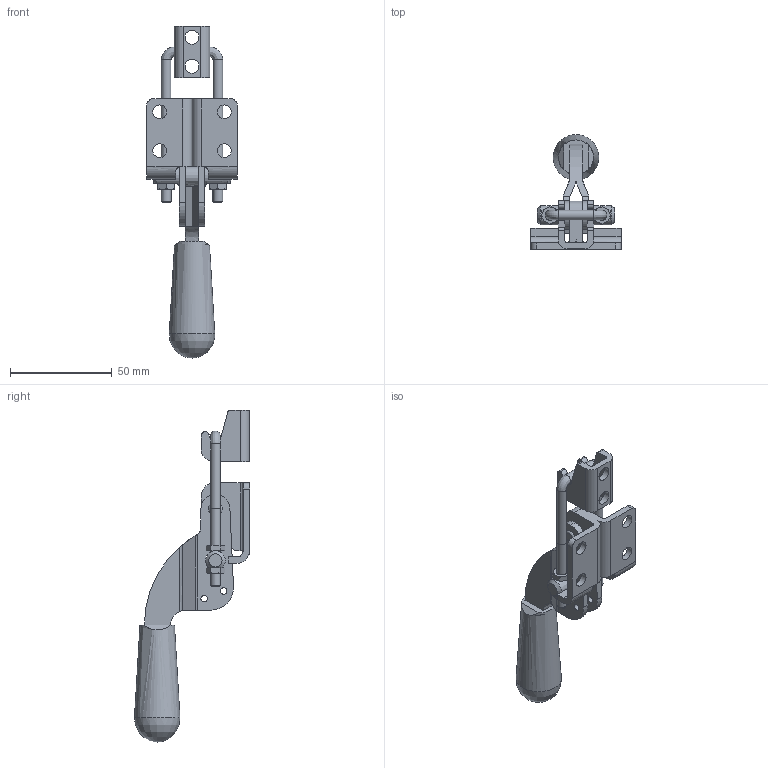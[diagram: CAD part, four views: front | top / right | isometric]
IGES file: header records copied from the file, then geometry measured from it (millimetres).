
Start section: Data from Parasolid IGES Translator 17.0.49, Copyright(c) 2006 Siemens P LM Software. All Rights Reserved.
Global section: file name: 331-SS.igs; native system: By Siemens PLM Incorporated; preprocessor: XPlus GENERIC/IGES 17.0.49; author: Noname; organization: Noname; date: 20161222.142211; units: millimetre
Bounding box: 44.35 x 56.52 x 163.05 mm (x, y, z)
Surface area: 27690.4 mm2 (no closed solid volume)
Topology: 0 solids, 0 shells, 242 faces, 1183 edges, 1135 vertices
Faces by surface type: revolution 141, extrusion 101
